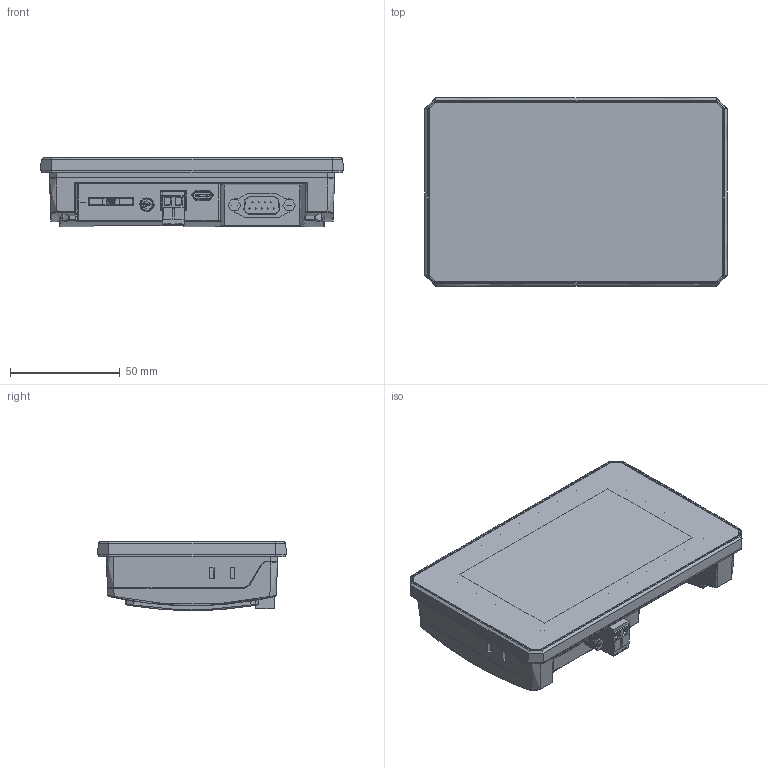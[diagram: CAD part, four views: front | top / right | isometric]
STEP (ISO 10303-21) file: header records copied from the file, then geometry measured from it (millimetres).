
FILE_DESCRIPTION(/* description */ (''),/* implementation_level */ '2;1');
FILE_NAME(/* name */ 'VI20-043S-FE-3d',/* time_stamp */ '2022-11-21T09:33:48+08:00',/* author */ (''),/* organization */ (''),/* preprocessor_version */ 'ST-DEVELOPER v16.5',/* originating_system */ '',/* authorisation */ '');
FILE_SCHEMA (('AUTOMOTIVE_DESIGN'));
Products named in the file (27): Document; FE6043-ASM_ASM_3_ASM_1_ASM; FE6043-PCBA_ASM_2_ASM_3_ASM_1_ASM; TLPHC-200-2R_6_15_7_2_3_1; D-SUB-M_2_6_15_7_2_3_1; USB_31_C_7_2_8_15_7_2_3_1; SIM_SHELID_ASM_15_ASM_7_ASM_2_A_ASM; PRODUCTROOTMODEL_NULL_DES-43145; PRODUCTROOTMODEL_NULL_DES-43146; PRODUCTROOTMODEL_NULL_DES-43147; PRODUCTROOTMODEL_NULL_DES-43148; PRODUCTROOTMODEL_NULL_DES-43149; PRODUCTROOTMODEL_NULL_DES-43150; PRODUCTROOTMODEL_NULL_DES-43151; PRODUCTROOTMODEL_NULL_DES-43152; PRODUCTROOTMODEL_NULL_DES-43153; PRODUCTROOTMODEL_NULL_DES-43154; PRODUCTROOTMODEL_NULL_DES-43155; PRODUCTROOTMODEL_NULL_DES-43156; PRODUCTROOTMODEL_NULL_DES-43157; PRODUCTROOTMODEL_NULL_DES-43158; PRODUCTROOTMODEL_NULL_DES-43159; PRODUCTROOTMODEL_NULL_DES-43160; PRODUCTROOTMODEL_NULL_DES-43161; SMA-KE0_15_7_2_3_1; PRT0001_1; Block 01
Assembly tree (26 placements, depth 5):
  Document
    FE6043-ASM_ASM_3_ASM_1_ASM
      FE6043-PCBA_ASM_2_ASM_3_ASM_1_ASM
        TLPHC-200-2R_6_15_7_2_3_1
        D-SUB-M_2_6_15_7_2_3_1
        USB_31_C_7_2_8_15_7_2_3_1
        SIM_SHELID_ASM_15_ASM_7_ASM_2_A_ASM
          PRODUCTROOTMODEL_NULL_DES-43145
          PRODUCTROOTMODEL_NULL_DES-43146
          PRODUCTROOTMODEL_NULL_DES-43147
          PRODUCTROOTMODEL_NULL_DES-43148
          PRODUCTROOTMODEL_NULL_DES-43149
          PRODUCTROOTMODEL_NULL_DES-43150
          PRODUCTROOTMODEL_NULL_DES-43151
          PRODUCTROOTMODEL_NULL_DES-43152
          PRODUCTROOTMODEL_NULL_DES-43153
          PRODUCTROOTMODEL_NULL_DES-43154
          PRODUCTROOTMODEL_NULL_DES-43155
          PRODUCTROOTMODEL_NULL_DES-43156
          PRODUCTROOTMODEL_NULL_DES-43157
          PRODUCTROOTMODEL_NULL_DES-43158
          PRODUCTROOTMODEL_NULL_DES-43159
          PRODUCTROOTMODEL_NULL_DES-43160
          PRODUCTROOTMODEL_NULL_DES-43161
        SMA-KE0_15_7_2_3_1
      PRT0001_1
        Block 01
Bounding box: 138 x 86 x 31.58 mm (x, y, z)
Volume: 198866.7 mm3; surface area: 128910.3 mm2
Topology: 28 solids, 29 shells, 4069 faces, 10793 edges, 6830 vertices
Faces by surface type: plane 2614, bspline 1455
Entity records: 152288 total; most frequent: CARTESIAN_POINT 82941, ORIENTED_EDGE 21520, EDGE_CURVE 10764, B_SPLINE_CURVE_WITH_KNOTS 8730, VERTEX_POINT 6810, EDGE_LOOP 4274, ADVANCED_FACE 4069, FACE_OUTER_BOUND 4069
